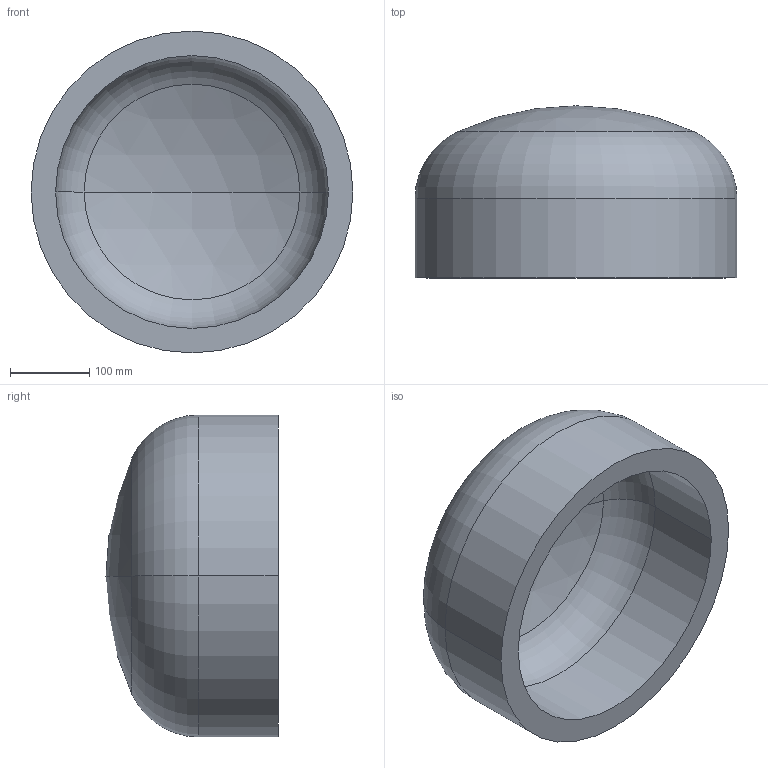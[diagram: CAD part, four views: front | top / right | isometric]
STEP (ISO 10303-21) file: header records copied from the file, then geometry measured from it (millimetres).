
FILE_DESCRIPTION (( 'STEP AP203' ), '1' );
FILE_NAME ('DIN 28013 Korbbogenform_-_Boden DIN 28013 - 406,4 x 100 - I - s=31.step', '2016-07-01T07:50:14', ( '' ), ( '' ), 'SwSTEP 2.0', 'SolidWorks 2013', '' );
FILE_SCHEMA (( 'CONFIG_CONTROL_DESIGN' ));
Length unit declared in the file: millimetre
Products named in the file (1): DIN 28013 Korbbogenform_-_Boden DIN 28013 - 406,4 x 100 - I - s=31
Bounding box: 406.4 x 217.2 x 406.4 mm (x, y, z)
Volume: 8705673.6 mm3; surface area: 600229 mm2
Topology: 1 solids, 1 shells, 13 faces, 24 edges, 14 vertices
Faces by surface type: torus 4, cylinder 4, sphere 4, plane 1
Entity records: 407 total; most frequent: DIRECTION 72, CARTESIAN_POINT 52, ORIENTED_EDGE 48, AXIS2_PLACEMENT_3D 34, EDGE_CURVE 24, CIRCLE 20, VERTEX_POINT 14, EDGE_LOOP 14
